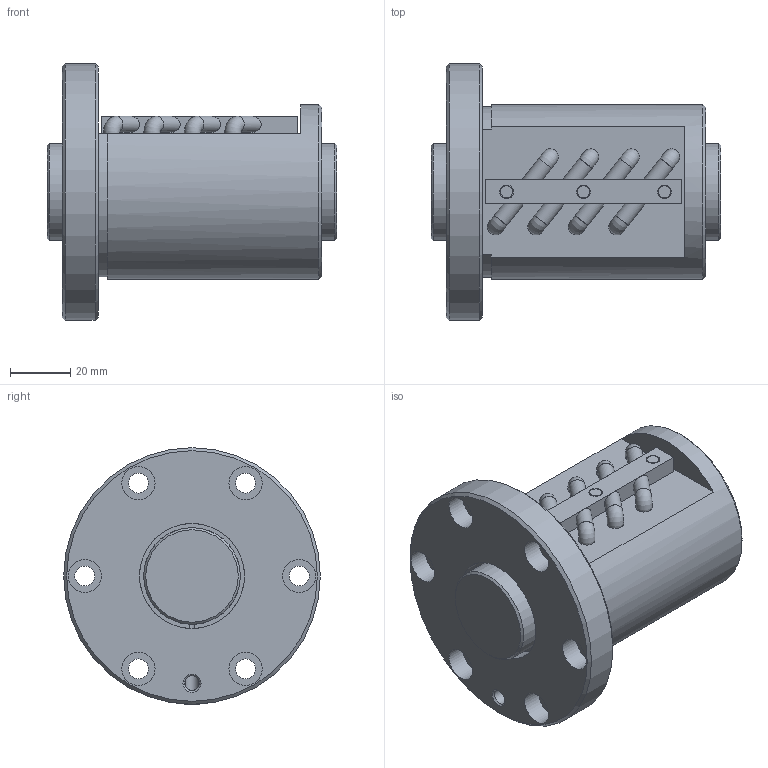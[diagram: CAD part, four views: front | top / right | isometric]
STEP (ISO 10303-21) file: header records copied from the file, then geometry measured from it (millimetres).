
FILE_DESCRIPTION(/* description */ ('STEP AP203'),/* implementation_level */ '2;1');
FILE_NAME(/* name */ 'BIF3205V-10RRG0+96LC0_000',/* time_stamp */ '2024-07-15T08:18:30+02:00',/* author */ ('License CC BY-ND 4.0'),/* organization */ ('CADENAS'),/* preprocessor_version */ 'ST-DEVELOPER v19.3',/* originating_system */ 'PARTsolutions',/* authorisation */ ' ');
FILE_SCHEMA (('CONFIG_CONTROL_DESIGN'));
Length unit declared in the file: millimetre
Products named in the file (3): BIF3205V-10RRG0+96LC0_000; BIF3205V-10RR000 Shaft; BIF3205V-10RR Nut
Assembly tree (2 placements, depth 2):
  BIF3205V-10RRG0+96LC0_000
    BIF3205V-10RR000 Shaft
    BIF3205V-10RR Nut
Bounding box: 96 x 85 x 85 mm (x, y, z)
Volume: 249925.4 mm3; surface area: 50517.9 mm2
Topology: 2 solids, 2 shells, 113 faces, 262 edges, 167 vertices
Faces by surface type: plane 53, cylinder 44, cone 8, torus 8
Full cylindrical faces by diameter (mm): 4 x3, 4.25 x2, 4.5 x3, 4.917 x1, 5.4 x8, 6.6 x6, 11 x6, 32 x2, 34.8 x2, 58 x1, 85 x1
Entity records: 3135 total; most frequent: CARTESIAN_POINT 601, DIRECTION 562, ORIENTED_EDGE 406, AXIS2_PLACEMENT_3D 258, EDGE_CURVE 203, EDGE_LOOP 202, FACE_BOUND 202, VERTEX_POINT 151
